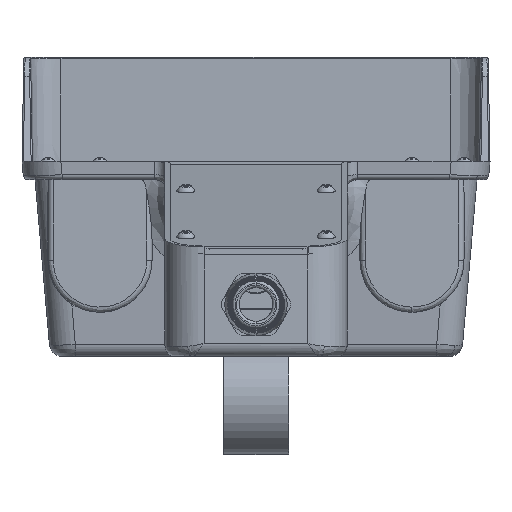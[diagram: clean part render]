
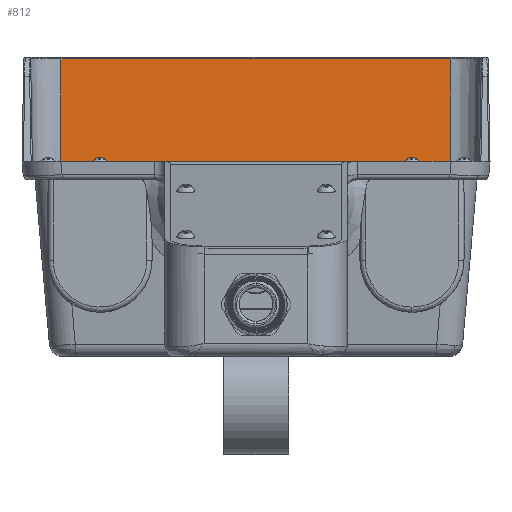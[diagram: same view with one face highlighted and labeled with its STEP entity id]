
A CAD part, front view. The second image highlights one B-rep face of the part: STEP entity #812.
In plain terms, the highlighted planar face has unit normal (0, -1, 0.018).
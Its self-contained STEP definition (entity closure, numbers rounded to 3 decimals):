
#316 = ORIENTED_EDGE ( 'NONE', *, *, #72204, .T. ) ;
#812 = ADVANCED_FACE ( 'NONE', ( #50154 ), #13917, .T. ) ;
#2813 = CARTESIAN_POINT ( 'NONE',  ( -75., 56., 75. ) ) ;
#3912 = CARTESIAN_POINT ( 'NONE',  ( 75., 56.69, 114.509 ) ) ;
#9393 = LINE ( 'NONE', #65735, #45901 ) ;
#11318 = CARTESIAN_POINT ( 'NONE',  ( 75., 56.345, 94.754 ) ) ;
#13917 = PLANE ( 'NONE',  #57351 ) ;
#17561 = ORIENTED_EDGE ( 'NONE', *, *, #32055, .F. ) ;
#18322 = DIRECTION ( 'NONE',  ( 0., 0.017, 1. ) ) ;
#19599 = ORIENTED_EDGE ( 'NONE', *, *, #28006, .F. ) ;
#21367 = VECTOR ( 'NONE', #22877, 1000. ) ;
#22877 = DIRECTION ( 'NONE',  ( 1., 0., 0. ) ) ;
#23099 = VERTEX_POINT ( 'NONE', #3912 ) ;
#26100 = CARTESIAN_POINT ( 'NONE',  ( -75., 56.69, 114.509 ) ) ;
#26887 = LINE ( 'NONE', #57810, #21367 ) ;
#28006 = EDGE_CURVE ( 'NONE', #72400, #62910, #35851, .T. ) ;
#29908 = EDGE_LOOP ( 'NONE', ( #19599, #68627, #17561, #316 ) ) ;
#30111 = CARTESIAN_POINT ( 'NONE',  ( -75., 56.345, 94.754 ) ) ;
#32055 = EDGE_CURVE ( 'NONE', #23099, #71335, #69163, .T. ) ;
#32198 = VECTOR ( 'NONE', #18322, 1000. ) ;
#35851 = LINE ( 'NONE', #30111, #32198 ) ;
#37639 = DIRECTION ( 'NONE',  ( 0., -1., 0.017 ) ) ;
#45901 = VECTOR ( 'NONE', #71633, 1000. ) ;
#45906 = CARTESIAN_POINT ( 'NONE',  ( 75., 56., 75. ) ) ;
#47436 = CARTESIAN_POINT ( 'NONE',  ( -75., 56.69, 114.509 ) ) ;
#49347 = DIRECTION ( 'NONE',  ( 0., -0.017, -1. ) ) ;
#50154 = FACE_OUTER_BOUND ( 'NONE', #29908, .T. ) ;
#57351 = AXIS2_PLACEMENT_3D ( 'NONE', #26100, #37639, #49347 ) ;
#57810 = CARTESIAN_POINT ( 'NONE',  ( 0., 56., 75. ) ) ;
#62910 = VERTEX_POINT ( 'NONE', #47436 ) ;
#63176 = EDGE_CURVE ( 'NONE', #72400, #71335, #26887, .T. ) ;
#63292 = DIRECTION ( 'NONE',  ( 0., -0.017, -1. ) ) ;
#65735 = CARTESIAN_POINT ( 'NONE',  ( 0., 56.69, 114.509 ) ) ;
#68627 = ORIENTED_EDGE ( 'NONE', *, *, #63176, .T. ) ;
#69163 = LINE ( 'NONE', #11318, #74704 ) ;
#71335 = VERTEX_POINT ( 'NONE', #45906 ) ;
#71633 = DIRECTION ( 'NONE',  ( -1., 0., 0. ) ) ;
#72204 = EDGE_CURVE ( 'NONE', #23099, #62910, #9393, .T. ) ;
#72400 = VERTEX_POINT ( 'NONE', #2813 ) ;
#74704 = VECTOR ( 'NONE', #63292, 1000. ) ;
